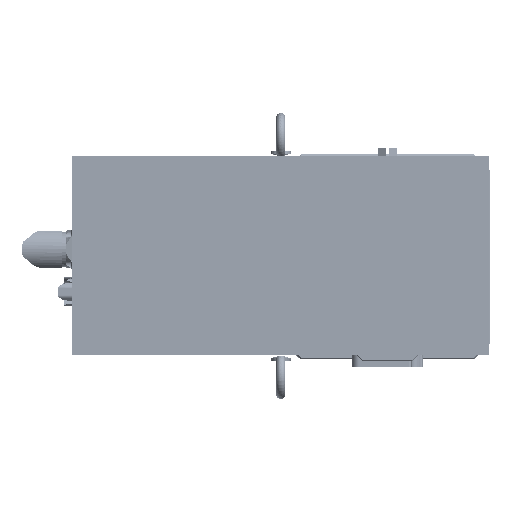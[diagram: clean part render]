
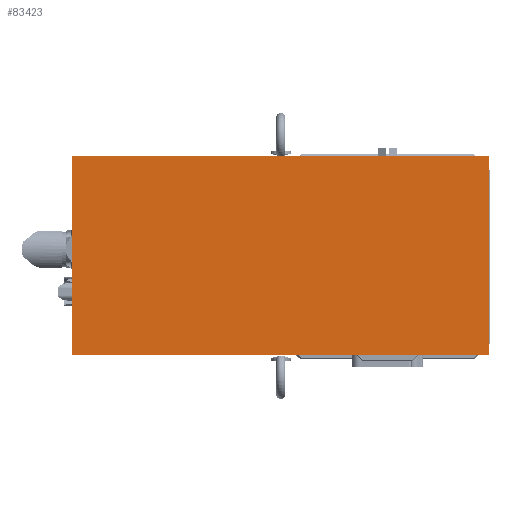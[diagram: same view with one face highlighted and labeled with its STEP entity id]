
A CAD part, top view. The second image highlights one B-rep face of the part: STEP entity #83423.
In plain terms, the highlighted planar face has unit normal (0, 0, 1).
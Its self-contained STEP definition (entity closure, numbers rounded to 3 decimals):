
#83384=CARTESIAN_POINT('',(-75.5,-77.,621.));
#83385=DIRECTION('',(0.,-1.,0.));
#83386=DIRECTION('',(-0.,0.,1.));
#83387=AXIS2_PLACEMENT_3D('',#83384,#83386,#83385);
#83388=PLANE('',#83387);
#83389=CARTESIAN_POINT('',(72.,70.5,621.));
#83390=VERTEX_POINT('',#83389);
#83391=CARTESIAN_POINT('',(-223.,70.5,621.));
#83392=VERTEX_POINT('',#83391);
#83393=CARTESIAN_POINT('',(72.,70.5,621.));
#83394=DIRECTION('',(-1.,0.,0.));
#83395=VECTOR('',#83394,295.);
#83396=LINE('',#83393,#83395);
#83397=EDGE_CURVE('',#83390,#83392,#83396,.T.);
#83398=ORIENTED_EDGE('E5889',*,*,#83397,.T.);
#83399=CARTESIAN_POINT('',(-223.,-70.5,621.));
#83400=VERTEX_POINT('',#83399);
#83401=CARTESIAN_POINT('',(-223.,70.5,621.));
#83402=DIRECTION('',(0.,-1.,0.));
#83403=VECTOR('',#83402,141.);
#83404=LINE('',#83401,#83403);
#83405=EDGE_CURVE('',#83392,#83400,#83404,.T.);
#83406=ORIENTED_EDGE('E5890',*,*,#83405,.T.);
#83407=CARTESIAN_POINT('',(72.,-70.5,621.));
#83408=VERTEX_POINT('',#83407);
#83409=CARTESIAN_POINT('',(-223.,-70.5,621.));
#83410=DIRECTION('',(1.,0.,0.));
#83411=VECTOR('',#83410,295.);
#83412=LINE('',#83409,#83411);
#83413=EDGE_CURVE('',#83400,#83408,#83412,.T.);
#83414=ORIENTED_EDGE('E5891',*,*,#83413,.T.);
#83415=CARTESIAN_POINT('',(72.,-70.5,621.));
#83416=DIRECTION('',(0.,1.,0.));
#83417=VECTOR('',#83416,141.);
#83418=LINE('',#83415,#83417);
#83419=EDGE_CURVE('',#83408,#83390,#83418,.T.);
#83420=ORIENTED_EDGE('E5892',*,*,#83419,.T.);
#83421=EDGE_LOOP('',(#83398,#83406,#83414,#83420));
#83422=FACE_OUTER_BOUND('',#83421,.T.);
#83423=ADVANCED_FACE('F2324',(#83422),#83388,.T.);
